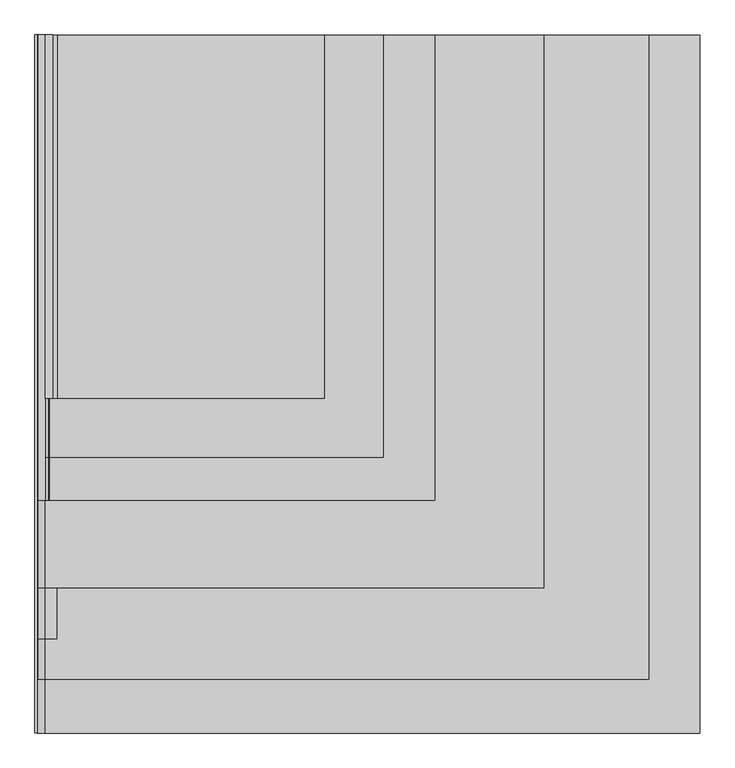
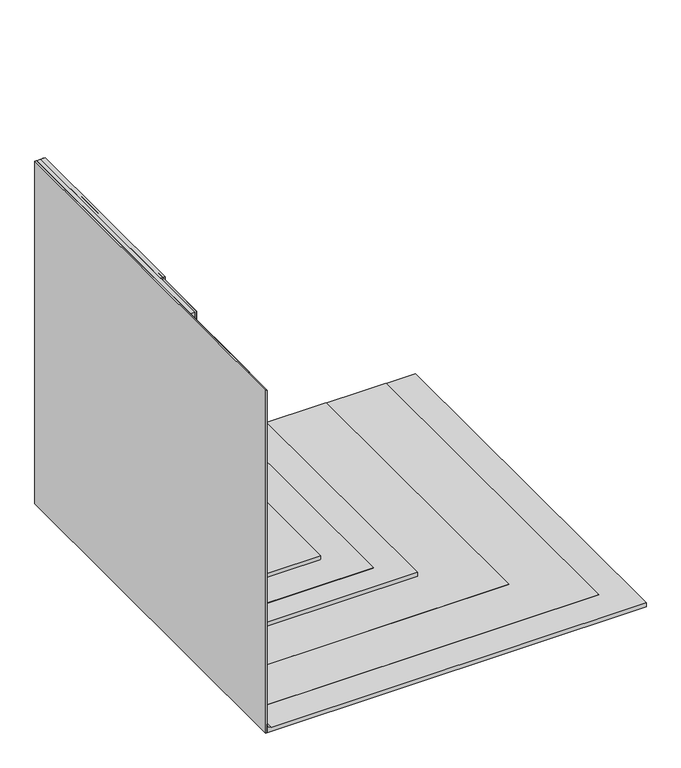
"""IFC4 building model written with IfcOpenShell, lengths in millimetres: proxy geometry, IMPER:IMPER:433934 : IMPER:IMPER:433934."""

import ifcopenshell
import ifcopenshell.guid

model = None  # the IFC model being written
_history = None  # IfcOwnerHistory: only IFC2X3 demands one
_inside = {}  # id of a spatial element -> (the spatial element, [elements in it])
_under = {}  # id of a project, library or spatial element -> (it, [spatial elements below it])
_declared = {}  # id of a project -> (the project, [libraries it declares])
_typed = {}  # id of a type object -> (the type object, [elements of that type])
_made_of = {}  # id of a material, layer set ... -> (it, [elements and type objects made of it])


def new_model(schema):
    """Start an empty IFC model of exactly this schema.

    Asked for "IFC4X3", IfcOpenShell would pick the latest addendum, in which some entities
    have other attributes; the version numbers below select the first issue.
    IFC2X3 requires an IfcOwnerHistory on every rooted entity: one is made here for all.
    """
    global model, _history
    if schema == "IFC4X3":
        model = ifcopenshell.file(schema_version=(4, 3, 0, 0))
    else:
        model = ifcopenshell.file(schema=schema)
    _inside.clear()
    _under.clear()
    _declared.clear()
    _typed.clear()
    _made_of.clear()
    _history = None
    if model.schema == "IFC2X3":
        org = make("IfcOrganization", Name="unknown")
        user = make(
            "IfcPersonAndOrganization",
            ThePerson=make("IfcPerson", FamilyName="unknown"),
            TheOrganization=org,
        )
        app = make(
            "IfcApplication",
            ApplicationDeveloper=org,
            Version="unknown",
            ApplicationFullName="unknown",
            ApplicationIdentifier="unknown",
        )
        _history = make(
            "IfcOwnerHistory",
            OwningUser=user,
            OwningApplication=app,
            ChangeAction="ADDED",
            CreationDate=0,
        )
    return model


def make(cls, **values):
    """One entity of the class cls with the attributes given. An attribute that is None is left unset."""
    return model.create_entity(
        cls, **{name: value for name, value in values.items() if value is not None}
    )


def rooted(cls, **values):
    """An entity with a GlobalId (a new one), such as an element, a storey or a relation."""
    return make(cls, GlobalId=ifcopenshell.guid.new(), OwnerHistory=_history, **values)


def si_unit(unit_type, name, prefix=None):
    """IfcSIUnit, for example si_unit("LENGTHUNIT", "METRE", prefix="MILLI")."""
    return make("IfcSIUnit", UnitType=unit_type, Prefix=prefix, Name=name)


def assignment(units):
    """IfcUnitAssignment: the units of a project."""
    return None if units is None else make("IfcUnitAssignment", Units=units)


def point(xyz):
    """IfcCartesianPoint."""
    return None if xyz is None else make("IfcCartesianPoint", Coordinates=xyz)


def direction(xyz):
    """IfcDirection."""
    return None if xyz is None else make("IfcDirection", DirectionRatios=xyz)


def frame(location, z_axis=None, x_axis=None):
    """IfcAxis2Placement3D, a coordinate frame: its origin and axes. An axis left out is left unset."""
    return make(
        "IfcAxis2Placement3D",
        Location=point(location),
        Axis=direction(z_axis),
        RefDirection=direction(x_axis),
    )


def frame_2d(location, x_axis=None):
    """IfcAxis2Placement2D, a coordinate frame in the plane: its origin and x axis."""
    return make(
        "IfcAxis2Placement2D", Location=point(location), RefDirection=direction(x_axis)
    )


def origin():
    """The frame at (0, 0, 0) with its axes left unset."""
    return frame((0.0, 0.0, 0.0))


def place(relative_to, where):
    """IfcLocalPlacement: puts the frame where relative to a parent placement (None: the world)."""
    return make(
        "IfcLocalPlacement", PlacementRelTo=relative_to, RelativePlacement=where
    )


def context(
    kind, dimensions, precision=None, world=None, true_north=None, identifier=None
):
    """IfcGeometricRepresentationContext, for example the 3D "Model" context."""
    return make(
        "IfcGeometricRepresentationContext",
        ContextIdentifier=identifier,
        ContextType=kind,
        CoordinateSpaceDimension=dimensions,
        Precision=precision,
        WorldCoordinateSystem=world,
        TrueNorth=true_north,
    )


def project(units=None, contexts=None):
    """IfcProject with its units and contexts."""
    return rooted(
        "IfcProject",
        Name="project",
        RepresentationContexts=contexts,
        UnitsInContext=assignment(units),
    )


def spatial(cls, under=None, at=None, **own):
    """A site, building, storey or space (cls), placed at a placement, below another one or the project."""
    s = rooted(cls, ObjectPlacement=at, **own)
    if under is not None:
        _under.setdefault(under.id(), (under, []))[1].append(s)
    return s


def polyline(points):
    """IfcPolyline through the points."""
    return make("IfcPolyline", Points=[point(p) for p in points])


def circle_curve(where, radius):
    """IfcCircle in the frame where."""
    return make("IfcCircle", Position=where, Radius=radius)


def trimmed(basis, trim1, trim2, sense, master):
    """IfcTrimmedCurve: the piece of a basis curve between two trims."""
    return make(
        "IfcTrimmedCurve",
        BasisCurve=basis,
        Trim1=trim1,
        Trim2=trim2,
        SenseAgreement=sense,
        MasterRepresentation=master,
    )


def segment(curve, same_sense, transition):
    """IfcCompositeCurveSegment."""
    return make(
        "IfcCompositeCurveSegment",
        Transition=transition,
        SameSense=same_sense,
        ParentCurve=curve,
    )


def composite_curve(segments, self_intersect=None):
    """IfcCompositeCurve: segments joined end to end."""
    return make("IfcCompositeCurve", Segments=segments, SelfIntersect=self_intersect)


def outline(outer, holes=None, kind="AREA"):
    """IfcArbitraryClosedProfileDef: a profile drawn as a closed curve; with holes, ...WithVoids."""
    if holes is None:
        return make("IfcArbitraryClosedProfileDef", ProfileType=kind, OuterCurve=outer)
    return make(
        "IfcArbitraryProfileDefWithVoids",
        ProfileType=kind,
        OuterCurve=outer,
        InnerCurves=holes,
    )


def extrude(swept, where, along, depth):
    """IfcExtrudedAreaSolid: the profile swept, set in the frame where, extruded along a direction by depth."""
    return make(
        "IfcExtrudedAreaSolid",
        SweptArea=swept,
        Position=where,
        ExtrudedDirection=direction(along),
        Depth=depth,
    )


def shape(context_of_items, identifier, shape_type, items):
    """IfcShapeRepresentation: the items that make up one representation, for example the "Body"."""
    return make(
        "IfcShapeRepresentation",
        ContextOfItems=context_of_items,
        RepresentationIdentifier=identifier,
        RepresentationType=shape_type,
        Items=items,
    )


def source(mapping_origin, context_of_items, identifier, shape_type, items):
    """IfcRepresentationMap: a shape defined once, which mapped items show again and again."""
    return make(
        "IfcRepresentationMap",
        MappingOrigin=mapping_origin,
        MappedRepresentation=shape(context_of_items, identifier, shape_type, items),
    )


def transform(
    local_origin,
    x_axis=None,
    y_axis=None,
    z_axis=None,
    scale=None,
    scale2=None,
    scale3=None,
    uniform=True,
):
    """IfcCartesianTransformationOperator3D, or its non-uniform kind. x_axis, y_axis, z_axis: its Axis1, 2, 3."""
    if uniform:
        return make(
            "IfcCartesianTransformationOperator3D",
            Axis1=direction(x_axis),
            Axis2=direction(y_axis),
            LocalOrigin=point(local_origin),
            Scale=scale,
            Axis3=direction(z_axis),
        )
    return make(
        "IfcCartesianTransformationOperator3DnonUniform",
        Axis1=direction(x_axis),
        Axis2=direction(y_axis),
        LocalOrigin=point(local_origin),
        Scale=scale,
        Axis3=direction(z_axis),
        Scale2=scale2,
        Scale3=scale3,
    )


def mapped(mapping_source, mapping_target):
    """IfcMappedItem: shows the shape of a source again, moved by a transform."""
    return make(
        "IfcMappedItem", MappingSource=mapping_source, MappingTarget=mapping_target
    )


def made_of(thing, what):
    """Note that an element or type object is made of a material, layer set ...; save() writes the relation."""
    if what is not None:
        _made_of.setdefault(what.id(), (what, []))[1].append(thing)
    return thing


def element(
    cls,
    number,
    at=None,
    inside=None,
    cuts=None,
    type_object=None,
    material=None,
    context=None,
    identifier="Body",
    shape_type=None,
    held_by="IfcProductDefinitionShape",
    body=None,
    shapes=None,
    **own,
):
    """One element of the class cls, such as IfcWall. Its Tag is "e" and its number.

    at: its placement. inside: the storey or other place that contains it. cuts: it is an
    opening in that element (IfcRelVoidsElement). A single representation is given by context,
    identifier, shape_type and body (its items); several are given by shapes. held_by: the class
    of the entity that holds the representations. save() writes the other relations.
    """
    e = rooted(cls, Tag="e%d" % number, ObjectPlacement=at, **own)
    if body is not None:
        shapes = [shape(context, identifier, shape_type, body)]
    if shapes is not None:
        e.Representation = make(held_by, Representations=shapes)
    if inside is not None:
        _inside.setdefault(inside.id(), (inside, []))[1].append(e)
    if cuts is not None:
        rooted(
            "IfcRelVoidsElement", RelatingBuildingElement=cuts, RelatedOpeningElement=e
        )
    if type_object is not None:
        _typed.setdefault(type_object.id(), (type_object, []))[1].append(e)
    return made_of(e, material)


def aggregate(whole, parts):
    """IfcRelAggregates: a whole, such as a stair, and the parts it consists of."""
    return rooted("IfcRelAggregates", RelatingObject=whole, RelatedObjects=parts)


def save(model, path):
    """Write the relations noted so far, then the file.

    IfcRelAggregates (storeys below a building ...), IfcRelContainedInSpatialStructure (elements
    in a storey), IfcRelDefinesByType, IfcRelAssociatesMaterial and IfcRelDeclares: one each for
    every whole, place, type object, material and project.
    """
    for whole, parts in _under.values():
        aggregate(whole, parts)
    for where, things in _inside.values():
        rooted(
            "IfcRelContainedInSpatialStructure",
            RelatedElements=things,
            RelatingStructure=where,
        )
    for kind, things in _typed.values():
        rooted("IfcRelDefinesByType", RelatedObjects=things, RelatingType=kind)
    for what, things in _made_of.values():
        rooted("IfcRelAssociatesMaterial", RelatedObjects=things, RelatingMaterial=what)
    for by, libraries in _declared.values():
        rooted("IfcRelDeclares", RelatingContext=by, RelatedDefinitions=libraries)
    model.write(path)


def generic_models_5e391535(model_context):
    return source(origin(), model_context, "Body", "SweptSolid", [
        extrude(outline(polyline([(1024.4658441, 145.8700195), (1024.4658441, -1523.3831628), (-310.9866614, -1523.3831628), (-310.9866614, 145.8700195), (1024.4658441, 145.8700195)])), frame((0.0, 0.0, 58.5018705), z_axis=(0.0, 0.0, 1.0), x_axis=(1.0, 0.0, 0.0)), (0.0, 0.0, 1.0), 1.0),
        extrude(outline(polyline([(59.5018705, -310.9866614), (59.5018705, 791.7412288), (89.5018705, 791.7412288), (89.5018705, -262.4607005), (76.9018705, -262.4607005), (76.9018705, -280.9866614), (89.5018705, -280.9866614), (2498.476202, -280.9866614), (2498.476202, -310.9866614), (59.5018705, -310.9866614)])), frame((0.0, -1289.9039503, 0.0), z_axis=(0.0, 1.0, 0.0), x_axis=(0.0, 0.0, 1.0)), (0.0, 0.0, 1.0), 1435.7739698),
        extrude(outline(polyline([(-296.4866614, 145.8700195), (-295.4866614, 145.8700195), (-295.4866614, -1694.1090661), (-296.4866614, -1694.1090661), (-296.4866614, 145.8700195)])), frame((0.0, 0.0, 89.5018705), z_axis=(0.0, 0.0, 1.0), x_axis=(1.0, 0.0, 0.0)), (0.0, 0.0, 1.0), 2408.9743315),
        extrude(outline(polyline([(-262.4607005, 145.8700195), (-262.4607005, -1289.9039503), (-280.9866614, -1289.9039503), (-280.9866614, 145.8700195), (-262.4607005, 145.8700195)])), frame((0.0, 0.0, 76.9018705), z_axis=(0.0, 0.0, 1.0), x_axis=(1.0, 0.0, 0.0)), (0.0, 0.0, 1.0), 12.6),
        extrude(outline(polyline([(-351.9704105, 145.8700195), (-341.9704105, 145.8700195), (-341.9704105, -2614.1299805), (-351.9704105, -2614.1299805), (-351.9704105, 145.8700195)])), frame((0.0, 0.0, -2.523798), z_axis=(0.0, 0.0, 1.0), x_axis=(1.0, 0.0, 0.0)), (0.0, 0.0, 1.0), 2500.0),
        extrude(outline(composite_curve([segment(trimmed(circle_curve(frame_2d((57.476202, -311.9704105)), 30.0), [point((27.476202, -311.9704105))], [point((57.476202, -341.9704105))], True, "CARTESIAN"), True, "CONTINUOUS"), segment(polyline([(57.476202, -341.9704105), (-2.523798, -341.9704105), (-2.523798, 2276.3958314), (27.476202, 2276.3958314), (27.476202, -311.9704105)]), True, "CONTINUOUS")], self_intersect=False)), frame((0.0, -2614.1299805, 0.0), z_axis=(0.0, 1.0, 0.0), x_axis=(0.0, 0.0, 1.0)), (0.0, 0.0, 1.0), 2760.0),
        extrude(outline(composite_curve([segment(polyline([(57.247278, -340.8534453), (2497.476202, -340.8534453), (2497.476202, -341.8647555), (57.65588, -341.8647555)]), True, "CONTINUOUS"), segment(trimmed(circle_curve(frame_2d((58.2373783, -311.9704105)), 29.9), [point((57.65588, -341.8647555))], [point((28.3502125, -312.8463798))], False, "CARTESIAN"), True, "CONTINUOUS"), segment(polyline([(28.3502125, -312.8463798), (28.3502125, 1659.1465547), (29.3502125, 1659.1465547), (29.3502125, -312.8316037)]), True, "CONTINUOUS"), segment(trimmed(circle_curve(frame_2d((58.2373783, -311.9704105)), 28.9), [point((29.3502125, -312.8316037))], [point((57.247278, -340.8534453))], True, "CARTESIAN"), True, "CONTINUOUS")], self_intersect=False)), frame((0.0, -2038.8350439, 0.0), z_axis=(0.0, 1.0, 0.0), x_axis=(0.0, 0.0, 1.0)), (0.0, 0.0, 1.0), 2184.7050634),
        extrude(outline(composite_curve([segment(polyline([(58.5018705, -310.9866614), (2497.476202, -310.9866614), (2497.476202, -340.8534453), (57.247278, -340.8534453)]), True, "CONTINUOUS"), segment(trimmed(circle_curve(frame_2d((58.2373783, -311.9704105)), 28.9), [point((57.247278, -340.8534453))], [point((29.3502125, -312.8316037))], False, "CARTESIAN"), True, "CONTINUOUS"), segment(polyline([(29.3502125, -312.8316037), (29.3502125, 1228.5344013), (58.5018705, 1228.5344013), (58.5018705, -310.9866614)]), True, "CONTINUOUS")], self_intersect=False)), frame((0.0, -1694.1090661, 0.0), z_axis=(0.0, 1.0, 0.0), x_axis=(0.0, 0.0, 1.0)), (0.0, 0.0, 1.0), 1839.9790855),
        extrude(outline(composite_curve([segment(trimmed(circle_curve(frame_2d((57.476202, -311.9704105)), 29.9), [point((59.987578, -341.7647555))], [point((27.576202, -311.9704105))], False, "CARTESIAN"), True, "CONTINUOUS"), segment(polyline([(27.576202, -311.9704105), (27.576202, -265.9534453), (29.2502125, -265.9534453), (29.2502125, -312.8330927)]), True, "CONTINUOUS"), segment(trimmed(circle_curve(frame_2d((58.2373783, -311.9704105)), 29.0), [point((29.2502125, -312.8330927))], [point((57.245566, -340.9534453))], True, "CARTESIAN"), True, "CONTINUOUS"), segment(polyline([(57.245566, -340.9534453), (116.7936633, -340.9534453), (116.7936633, -341.7647555), (59.987578, -341.7647555)]), True, "CONTINUOUS")], self_intersect=False)), frame((0.0, -2241.7938643, 0.0), z_axis=(0.0, 1.0, 0.0), x_axis=(0.0, 0.0, 1.0)), (0.0, 0.0, 1.0), 2387.6638838),
        extrude(outline(composite_curve([segment(polyline([(56.6663512, -340.9591004), (2497.476202, -340.9591004), (2497.476202, -341.9704105), (57.476202, -341.9704105)]), True, "CONTINUOUS"), segment(trimmed(circle_curve(frame_2d((57.476202, -311.9704105)), 30.0), [point((57.476202, -341.9704105))], [point((27.476202, -311.9704105))], False, "CARTESIAN"), True, "CONTINUOUS"), segment(polyline([(27.476202, -311.9704105), (27.476202, 2074.0431281), (28.5018705, 2074.0431281), (28.5018705, -313.1902924)]), True, "CONTINUOUS"), segment(trimmed(circle_curve(frame_2d((57.476202, -311.9704105)), 29.0), [point((28.5018705, -313.1902924))], [point((56.6663512, -340.9591004))], True, "CARTESIAN"), True, "CONTINUOUS")], self_intersect=False)), frame((0.0, -2401.3933741, 0.0), z_axis=(0.0, 1.0, 0.0), x_axis=(0.0, 0.0, 1.0)), (0.0, 0.0, 1.0), 2547.2633936),
    ])


if __name__ == "__main__":
    model = new_model("IFC4")
    model_context = context("Model", 3, world=origin())
    ifc_project = project(units=[si_unit("LENGTHUNIT", "METRE", prefix="MILLI")], contexts=[model_context])
    site = spatial("IfcSite", under=ifc_project)
    building = spatial("IfcBuilding", under=site)
    placement = place(None, origin())
    generic_models_shape = generic_models_5e391535(model_context)
    element("IfcBuildingElementProxy", 1, Name="IMPER:IMPER:433934 : IMPER:IMPER:433934", ObjectType="IMPER:IMPER:433934 : IMPER:IMPER:433934", at=placement, inside=building, context=model_context, shape_type="MappedRepresentation", body=[
        mapped(generic_models_shape, transform((0.0, 0.0, 0.0), x_axis=(1.0, 0.0, 0.0), y_axis=(0.0, 1.0, 0.0), z_axis=(0.0, 0.0, 1.0))),
    ])
    save(model, "model.ifc")
